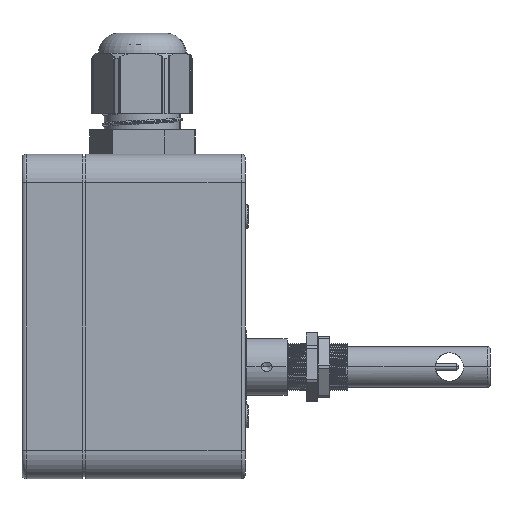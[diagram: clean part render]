
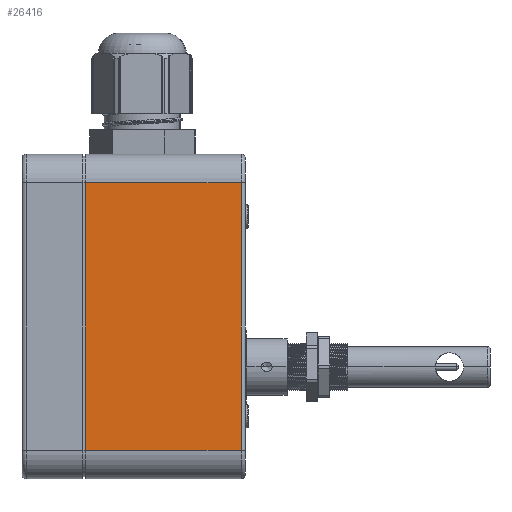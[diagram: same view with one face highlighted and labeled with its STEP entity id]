
A CAD part, left-side view. The second image highlights one B-rep face of the part: STEP entity #26416.
In plain terms, the highlighted planar face has unit normal (-1, 0, 0).
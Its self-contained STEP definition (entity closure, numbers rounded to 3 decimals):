
#1007 = EDGE_CURVE ( 'NONE', #16731, #19672, #8007, .T. ) ;
#2171 = VECTOR ( 'NONE', #2379, 1000. ) ;
#2379 = DIRECTION ( 'NONE',  ( 0., 0., 1. ) ) ;
#2414 = LINE ( 'NONE', #21669, #16285 ) ;
#2569 = EDGE_LOOP ( 'NONE', ( #3484, #24740, #16734, #3442 ) ) ;
#2715 = DIRECTION ( 'NONE',  ( 0., 0., 1. ) ) ;
#3029 = CARTESIAN_POINT ( 'NONE',  ( -42.5, -39., 33. ) ) ;
#3442 = ORIENTED_EDGE ( 'NONE', *, *, #1007, .F. ) ;
#3484 = ORIENTED_EDGE ( 'NONE', *, *, #8990, .T. ) ;
#5567 = DIRECTION ( 'NONE',  ( -1., 0., 0. ) ) ;
#8007 = LINE ( 'NONE', #16568, #2171 ) ;
#8990 = EDGE_CURVE ( 'NONE', #16731, #22942, #2414, .T. ) ;
#9529 = EDGE_CURVE ( 'NONE', #23378, #19672, #13707, .T. ) ;
#11735 = DIRECTION ( 'NONE',  ( 0., 1., 0. ) ) ;
#12171 = FACE_OUTER_BOUND ( 'NONE', #2569, .T. ) ;
#13707 = LINE ( 'NONE', #22279, #14292 ) ;
#13873 = CARTESIAN_POINT ( 'NONE',  ( -42.5, -40., -40. ) ) ;
#13948 = AXIS2_PLACEMENT_3D ( 'NONE', #13873, #5567, #14145 ) ;
#13951 = LINE ( 'NONE', #15640, #24187 ) ;
#14145 = DIRECTION ( 'NONE',  ( 0., 1., 0. ) ) ;
#14292 = VECTOR ( 'NONE', #11735, 1000. ) ;
#14784 = CARTESIAN_POINT ( 'NONE',  ( -42.5, -39., -33. ) ) ;
#15640 = CARTESIAN_POINT ( 'NONE',  ( -42.5, -39., -40. ) ) ;
#16285 = VECTOR ( 'NONE', #17714, 1000. ) ;
#16568 = CARTESIAN_POINT ( 'NONE',  ( -42.5, -0.6, -33. ) ) ;
#16731 = VERTEX_POINT ( 'NONE', #25691 ) ;
#16734 = ORIENTED_EDGE ( 'NONE', *, *, #9529, .T. ) ;
#17714 = DIRECTION ( 'NONE',  ( 0., -1., 0. ) ) ;
#19672 = VERTEX_POINT ( 'NONE', #23687 ) ;
#20738 = PLANE ( 'NONE',  #13948 ) ;
#21669 = CARTESIAN_POINT ( 'NONE',  ( -42.5, -40., -33. ) ) ;
#22279 = CARTESIAN_POINT ( 'NONE',  ( -42.5, -40., 33. ) ) ;
#22647 = EDGE_CURVE ( 'NONE', #22942, #23378, #13951, .T. ) ;
#22942 = VERTEX_POINT ( 'NONE', #14784 ) ;
#23378 = VERTEX_POINT ( 'NONE', #3029 ) ;
#23687 = CARTESIAN_POINT ( 'NONE',  ( -42.5, -0.6, 33. ) ) ;
#24187 = VECTOR ( 'NONE', #2715, 1000. ) ;
#24740 = ORIENTED_EDGE ( 'NONE', *, *, #22647, .T. ) ;
#25691 = CARTESIAN_POINT ( 'NONE',  ( -42.5, -0.6, -33. ) ) ;
#26416 = ADVANCED_FACE ( 'NONE', ( #12171 ), #20738, .T. ) ;
